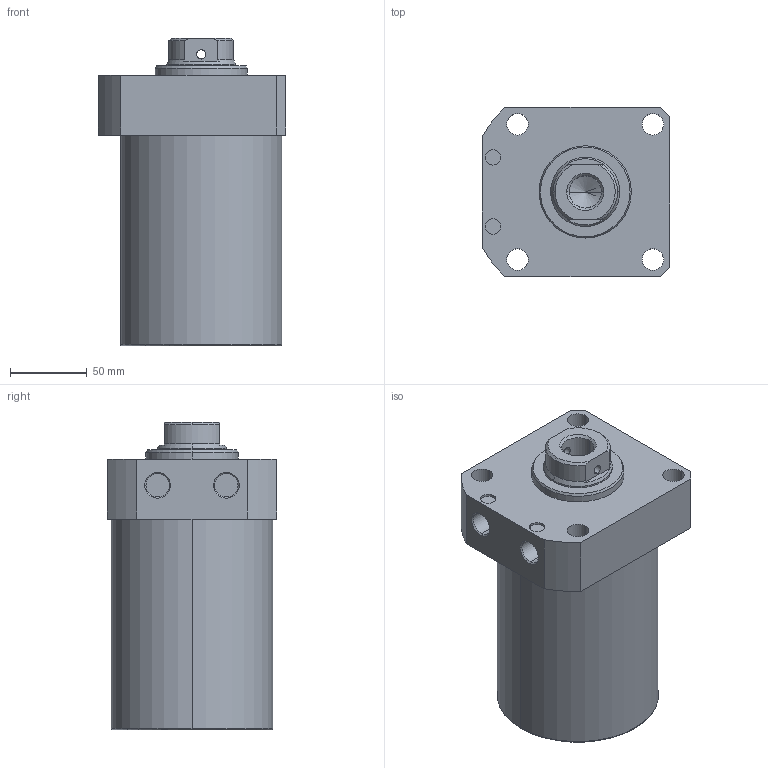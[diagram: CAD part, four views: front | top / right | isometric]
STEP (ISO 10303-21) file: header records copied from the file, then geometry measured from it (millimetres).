
FILE_DESCRIPTION (( 'STEP AP203' ), '1' );
FILE_NAME ('CLLR-105CB-090.STEP', '2019-12-18T07:25:45', ( '' ), ( '' ), 'SwSTEP 2.0', 'SolidWorks 2015', '' );
FILE_SCHEMA (( 'CONFIG_CONTROL_DESIGN' ));
Length unit declared in the file: millimetre
Products named in the file (1): CLLR-105CB-090
Bounding box: 122 x 110 x 200 mm (x, y, z)
Volume: 1683013.2 mm3; surface area: 103954.3 mm2
Topology: 1 solids, 1 shells, 69 faces, 165 edges, 104 vertices
Faces by surface type: cylinder 33, plane 19, cone 15, torus 2
Entity records: 2227 total; most frequent: CARTESIAN_POINT 481, DIRECTION 372, ORIENTED_EDGE 326, EDGE_CURVE 163, AXIS2_PLACEMENT_3D 151, VERTEX_POINT 104, EDGE_LOOP 89, CIRCLE 81
